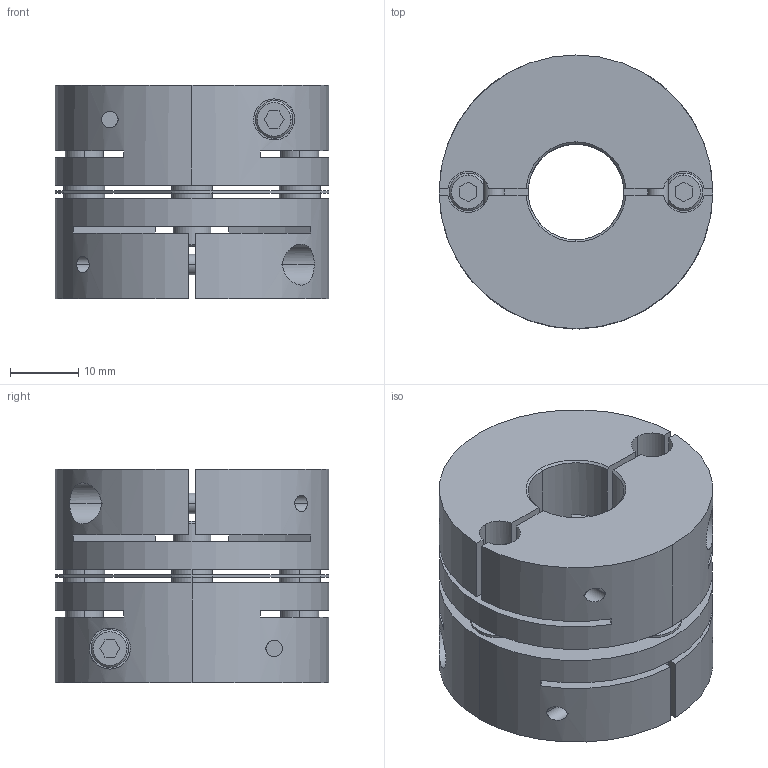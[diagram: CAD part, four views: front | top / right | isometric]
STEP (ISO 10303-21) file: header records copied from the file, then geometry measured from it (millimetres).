
FILE_DESCRIPTION((''),'2;1');
FILE_NAME('LAS-40C-14×14.stp','2011-08-11T08:51:42',(''),(''),'AutoCAD STEP 2000i','AutoCAD 2000i',', , ');
FILE_SCHEMA(('CONFIG_CONTROL_DESIGN'));
Length unit declared in the file: millimetre
Products named in the file (5): LAS-40C-10×10; 忣兜1; LA-4002-D10-1; LA-4002-D10; LAS40-ITA
Assembly tree (4 placements, depth 2):
  LAS-40C-10×10
    忣兜1
    LA-4002-D10-1
    LA-4002-D10
    LAS40-ITA
Bounding box: 40 x 40 x 31.2 mm (x, y, z)
Volume: 29580.9 mm3; surface area: 15287.8 mm2
Topology: 1 solids, 1 shells, 236 faces, 624 edges, 408 vertices
Faces by surface type: plane 112, cylinder 96, cone 28
Entity records: 8107 total; most frequent: CARTESIAN_POINT 1913, DIRECTION 1302, ORIENTED_EDGE 1248, EDGE_CURVE 624, AXIS2_PLACEMENT_3D 477, VERTEX_POINT 408, VECTOR 348, LINE 348
